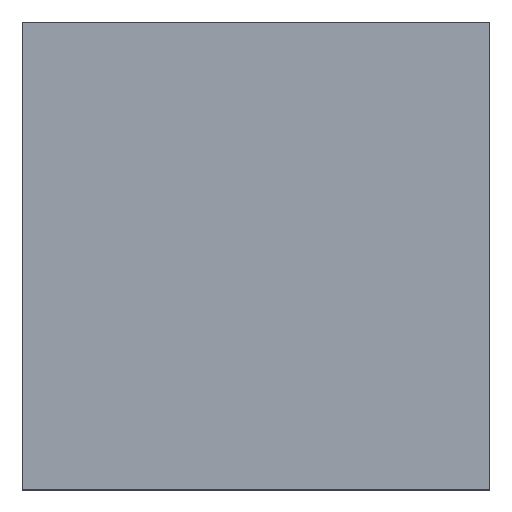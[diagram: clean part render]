
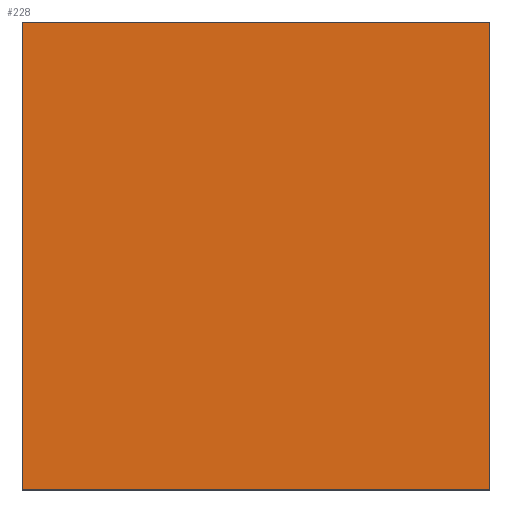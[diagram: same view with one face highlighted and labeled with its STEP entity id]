
A CAD part, top view. The second image highlights one B-rep face of the part: STEP entity #228.
In plain terms, the highlighted planar face has unit normal (0, 0, 1).
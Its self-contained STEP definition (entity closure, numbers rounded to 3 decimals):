
#10 = LINE ( 'NONE', #972, #879 ) ;
#42 = VERTEX_POINT ( 'NONE', #253 ) ;
#55 = LINE ( 'NONE', #452, #742 ) ;
#110 = PLANE ( 'NONE',  #133 ) ;
#116 = CARTESIAN_POINT ( 'NONE',  ( 0., 0., 12.5 ) ) ;
#124 = ORIENTED_EDGE ( 'NONE', *, *, #138, .T. ) ;
#133 = AXIS2_PLACEMENT_3D ( 'NONE', #116, #1095, #523 ) ;
#138 = EDGE_CURVE ( 'NONE', #42, #213, #10, .T. ) ;
#152 = VERTEX_POINT ( 'NONE', #895 ) ;
#213 = VERTEX_POINT ( 'NONE', #483 ) ;
#216 = DIRECTION ( 'NONE',  ( 1., 0., 0. ) ) ;
#228 = ADVANCED_FACE ( 'NONE', ( #609 ), #110, .F. ) ;
#253 = CARTESIAN_POINT ( 'NONE',  ( 0., 50., 12.5 ) ) ;
#270 = ORIENTED_EDGE ( 'NONE', *, *, #580, .T. ) ;
#344 = VERTEX_POINT ( 'NONE', #1101 ) ;
#441 = CARTESIAN_POINT ( 'NONE',  ( 50., 0., 12.5 ) ) ;
#452 = CARTESIAN_POINT ( 'NONE',  ( 0., 50., 12.5 ) ) ;
#478 = DIRECTION ( 'NONE',  ( -1., 0., 0. ) ) ;
#483 = CARTESIAN_POINT ( 'NONE',  ( 0., 0., 12.5 ) ) ;
#523 = DIRECTION ( 'NONE',  ( -1., 0., 0. ) ) ;
#551 = DIRECTION ( 'NONE',  ( 0., 1., 0. ) ) ;
#580 = EDGE_CURVE ( 'NONE', #213, #152, #582, .T. ) ;
#582 = LINE ( 'NONE', #913, #1103 ) ;
#609 = FACE_OUTER_BOUND ( 'NONE', #1162, .T. ) ;
#697 = EDGE_CURVE ( 'NONE', #152, #344, #832, .T. ) ;
#708 = ORIENTED_EDGE ( 'NONE', *, *, #697, .T. ) ;
#742 = VECTOR ( 'NONE', #478, 1000. ) ;
#832 = LINE ( 'NONE', #441, #905 ) ;
#879 = VECTOR ( 'NONE', #1078, 1000. ) ;
#895 = CARTESIAN_POINT ( 'NONE',  ( 50., 0., 12.5 ) ) ;
#905 = VECTOR ( 'NONE', #551, 1000. ) ;
#913 = CARTESIAN_POINT ( 'NONE',  ( 0., 0., 12.5 ) ) ;
#972 = CARTESIAN_POINT ( 'NONE',  ( 0., 0., 12.5 ) ) ;
#1078 = DIRECTION ( 'NONE',  ( 0., -1., 0. ) ) ;
#1095 = DIRECTION ( 'NONE',  ( 0., 0., -1. ) ) ;
#1101 = CARTESIAN_POINT ( 'NONE',  ( 50., 50., 12.5 ) ) ;
#1102 = ORIENTED_EDGE ( 'NONE', *, *, #1139, .T. ) ;
#1103 = VECTOR ( 'NONE', #216, 1000. ) ;
#1139 = EDGE_CURVE ( 'NONE', #344, #42, #55, .T. ) ;
#1162 = EDGE_LOOP ( 'NONE', ( #124, #270, #708, #1102 ) ) ;
